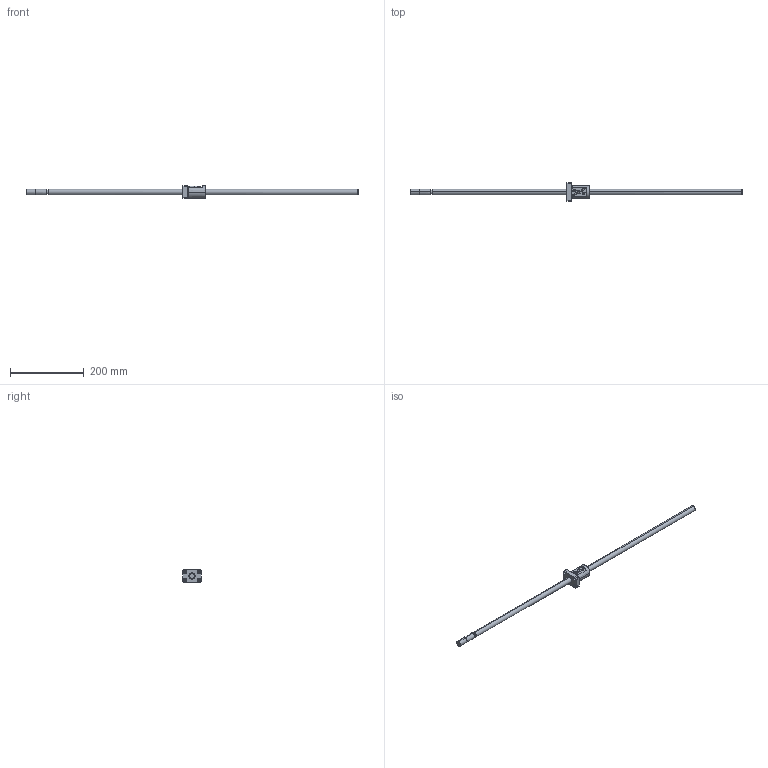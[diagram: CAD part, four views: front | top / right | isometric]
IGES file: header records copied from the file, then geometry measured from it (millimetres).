
Global section: file name: No Iges File Name specified; native system: AutoDesk Inventor R10; preprocessor: AutoDesk Inventor Iges Exporter R10; author: No Author specified; organization: No Organization specified; date: 20101224.141128; units: millimetre
Bounding box: 900 x 50 x 34 mm (x, y, z)
Surface area: 57634.9 mm2 (no closed solid volume)
Topology: 0 solids, 0 shells, 130 faces, 946 edges, 946 vertices
Faces by surface type: bspline 130
